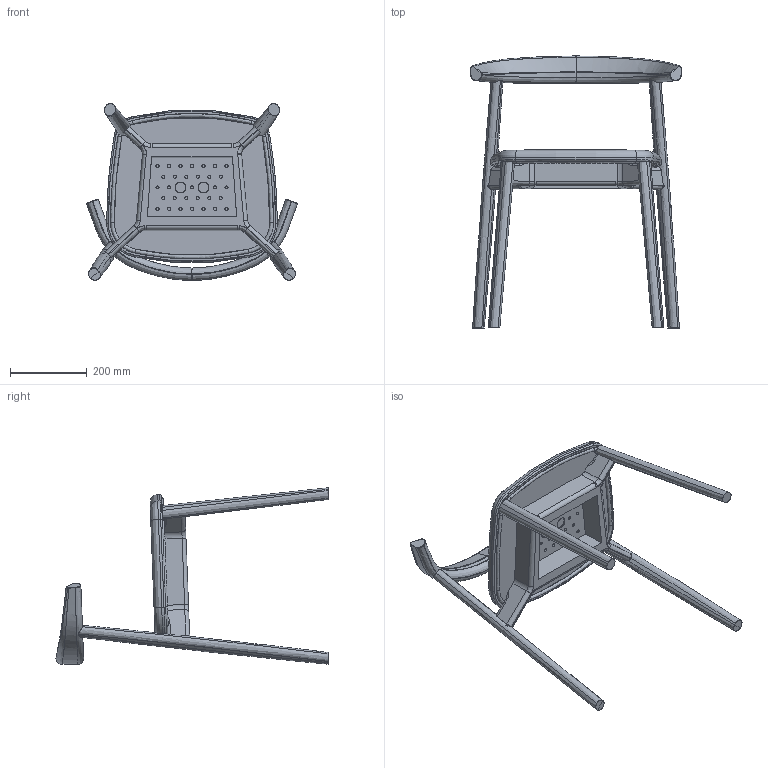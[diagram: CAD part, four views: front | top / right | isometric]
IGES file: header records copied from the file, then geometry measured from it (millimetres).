
Start section: SolidWorks IGES file using analytic representation for surfaces
Global section: file name: D:\sara\Downloads\410S Ando Chair_Upholstered_vb\410S Ando chair_Upholstered_vb_cadeira prmt-PART.IGS; native system: SolidWorks 2016; preprocessor: SolidWorks 2016; author: sara; date: 210615.162317; units: millimetre
Bounding box: 549.5 x 709.61 x 460.76 mm (x, y, z)
Surface area: 829404.6 mm2 (no closed solid volume)
Topology: 0 solids, 0 shells, 373 faces, 6997 edges, 6976 vertices
Faces by surface type: bspline 241, revolution 132
